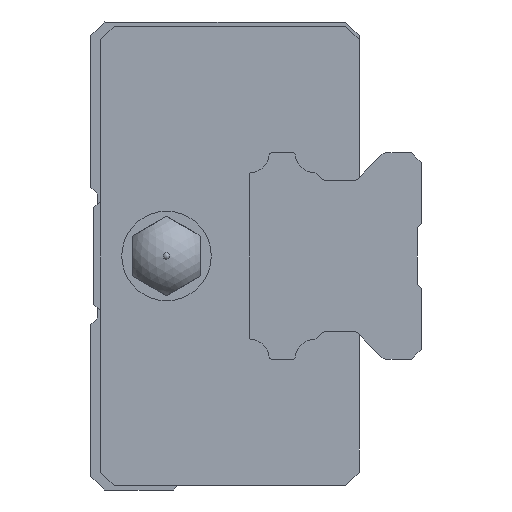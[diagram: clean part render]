
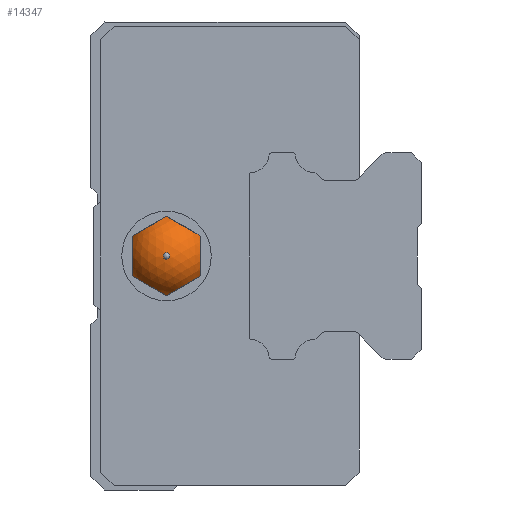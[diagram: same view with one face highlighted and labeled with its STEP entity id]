
A CAD part, left-side view. The second image highlights one B-rep face of the part: STEP entity #14347.
In plain terms, the highlighted spherical face has radius 3 mm.
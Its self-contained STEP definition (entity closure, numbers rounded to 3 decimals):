
#29=SPHERICAL_SURFACE('',#15571,3.);
#345=FACE_BOUND('',#2875,.T.);
#732=CIRCLE('',#15559,1.658);
#733=CIRCLE('',#15561,1.658);
#734=CIRCLE('',#15563,1.658);
#735=CIRCLE('',#15565,1.658);
#736=CIRCLE('',#15567,1.658);
#737=CIRCLE('',#15569,1.658);
#738=CIRCLE('',#15572,0.25);
#2018=FACE_OUTER_BOUND('',#2874,.T.);
#2874=EDGE_LOOP('',(#13469,#13470,#13471,#13472,#13473,#13474));
#2875=EDGE_LOOP('',(#13475));
#7380=VERTEX_POINT('',#25220);
#7382=VERTEX_POINT('',#25223);
#7384=VERTEX_POINT('',#25229);
#7386=VERTEX_POINT('',#25235);
#7388=VERTEX_POINT('',#25241);
#7390=VERTEX_POINT('',#25247);
#7392=VERTEX_POINT('',#25257);
#9407=EDGE_CURVE('',#7380,#7382,#732,.F.);
#9411=EDGE_CURVE('',#7384,#7380,#733,.F.);
#9414=EDGE_CURVE('',#7386,#7384,#734,.F.);
#9417=EDGE_CURVE('',#7388,#7386,#735,.F.);
#9420=EDGE_CURVE('',#7390,#7388,#736,.F.);
#9422=EDGE_CURVE('',#7382,#7390,#737,.F.);
#9424=EDGE_CURVE('',#7392,#7392,#738,.T.);
#13469=ORIENTED_EDGE('',*,*,#9411,.F.);
#13470=ORIENTED_EDGE('',*,*,#9414,.F.);
#13471=ORIENTED_EDGE('',*,*,#9417,.F.);
#13472=ORIENTED_EDGE('',*,*,#9420,.F.);
#13473=ORIENTED_EDGE('',*,*,#9422,.F.);
#13474=ORIENTED_EDGE('',*,*,#9407,.F.);
#13475=ORIENTED_EDGE('',*,*,#9424,.T.);
#14347=ADVANCED_FACE('',(#2018,#345),#29,.T.);
#15559=AXIS2_PLACEMENT_3D('',#25224,#19269,#19270);
#15561=AXIS2_PLACEMENT_3D('',#25232,#19276,#19277);
#15563=AXIS2_PLACEMENT_3D('',#25238,#19282,#19283);
#15565=AXIS2_PLACEMENT_3D('',#25244,#19288,#19289);
#15567=AXIS2_PLACEMENT_3D('',#25250,#19294,#19295);
#15569=AXIS2_PLACEMENT_3D('',#25253,#19299,#19300);
#15571=AXIS2_PLACEMENT_3D('',#25256,#19304,#19305);
#15572=AXIS2_PLACEMENT_3D('',#25258,#19306,#19307);
#19269=DIRECTION('center_axis',(-0.866,0.,-0.5));
#19270=DIRECTION('ref_axis',(-0.5,0.,0.866));
#19276=DIRECTION('center_axis',(-0.866,0.,0.5));
#19277=DIRECTION('ref_axis',(0.5,0.,0.866));
#19282=DIRECTION('center_axis',(0.,0.,1.));
#19283=DIRECTION('ref_axis',(1.,0.,0.));
#19288=DIRECTION('center_axis',(0.866,0.,0.5));
#19289=DIRECTION('ref_axis',(0.5,0.,-0.866));
#19294=DIRECTION('center_axis',(0.866,0.,-0.5));
#19295=DIRECTION('ref_axis',(-0.5,0.,-0.866));
#19299=DIRECTION('center_axis',(0.,0.,-1.));
#19300=DIRECTION('ref_axis',(-1.,0.,0.));
#19304=DIRECTION('center_axis',(0.,0.,1.));
#19305=DIRECTION('ref_axis',(1.,0.,0.));
#19306=DIRECTION('center_axis',(0.,-1.,0.));
#19307=DIRECTION('ref_axis',(0.,0.,-1.));
#25220=CARTESIAN_POINT('',(2.887,3.116,0.));
#25223=CARTESIAN_POINT('',(1.443,3.116,2.5));
#25224=CARTESIAN_POINT('Origin',(2.165,2.3,1.25));
#25229=CARTESIAN_POINT('',(1.443,3.116,-2.5));
#25232=CARTESIAN_POINT('Origin',(2.165,2.3,-1.25));
#25235=CARTESIAN_POINT('',(-1.443,3.116,-2.5));
#25238=CARTESIAN_POINT('Origin',(0.,2.3,-2.5));
#25241=CARTESIAN_POINT('',(-2.887,3.116,0.));
#25244=CARTESIAN_POINT('Origin',(-2.165,2.3,-1.25));
#25247=CARTESIAN_POINT('',(-1.443,3.116,2.5));
#25250=CARTESIAN_POINT('Origin',(-2.165,2.3,1.25));
#25253=CARTESIAN_POINT('Origin',(0.,2.3,2.5));
#25256=CARTESIAN_POINT('Origin',(0.,2.3,0.));
#25257=CARTESIAN_POINT('',(0.,5.29,-0.25));
#25258=CARTESIAN_POINT('Origin',(0.,5.29,0.));
